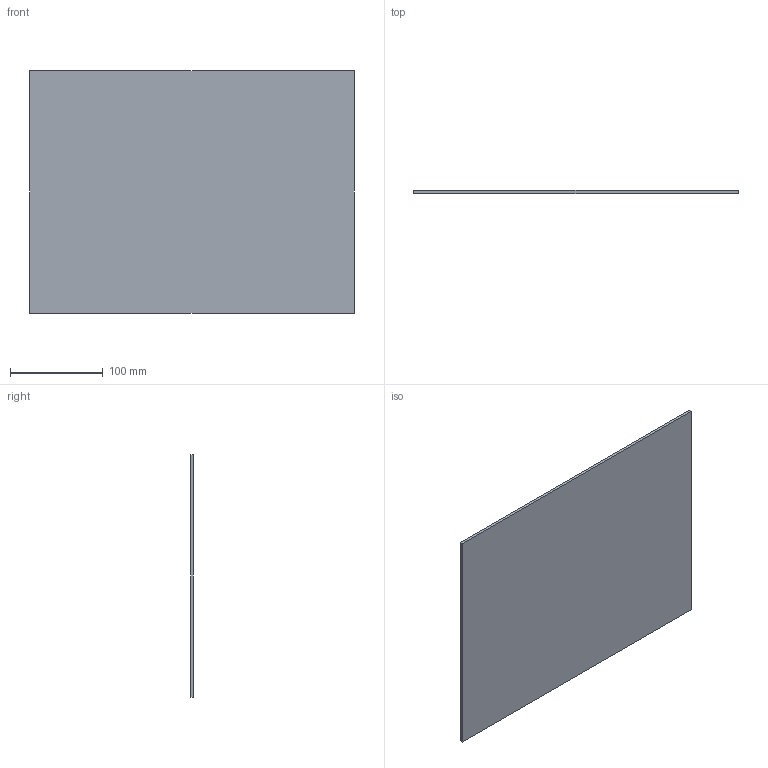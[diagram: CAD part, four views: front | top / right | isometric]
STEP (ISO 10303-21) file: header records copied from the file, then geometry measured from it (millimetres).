
FILE_DESCRIPTION(('Open CASCADE Model'),'2;1');
FILE_NAME('Open CASCADE Shape Model','2026-10-16T18:03:45',('Author'),( 'Open CASCADE'),'Open CASCADE STEP processor 7.8','Open CASCADE 7.8' ,'Unknown');
FILE_SCHEMA(('AUTOMOTIVE_DESIGN { 1 0 10303 214 1 1 1 1 }'));
Length unit declared in the file: millimetre
Products named in the file (1): Open CASCADE STEP translator 7.8 19
Bounding box: 350 x 3 x 262 mm (x, y, z)
Volume: 275100 mm3; surface area: 187072 mm2
Topology: 1 solids, 1 shells, 6 faces, 12 edges, 8 vertices
Faces by surface type: plane 6
Entity records: 322 total; most frequent: CARTESIAN_POINT 51, DIRECTION 50, LINE 36, VECTOR 36, ORIENTED_EDGE 24, PCURVE 24, DEFINITIONAL_REPRESENTATION 24, EDGE_CURVE 12
